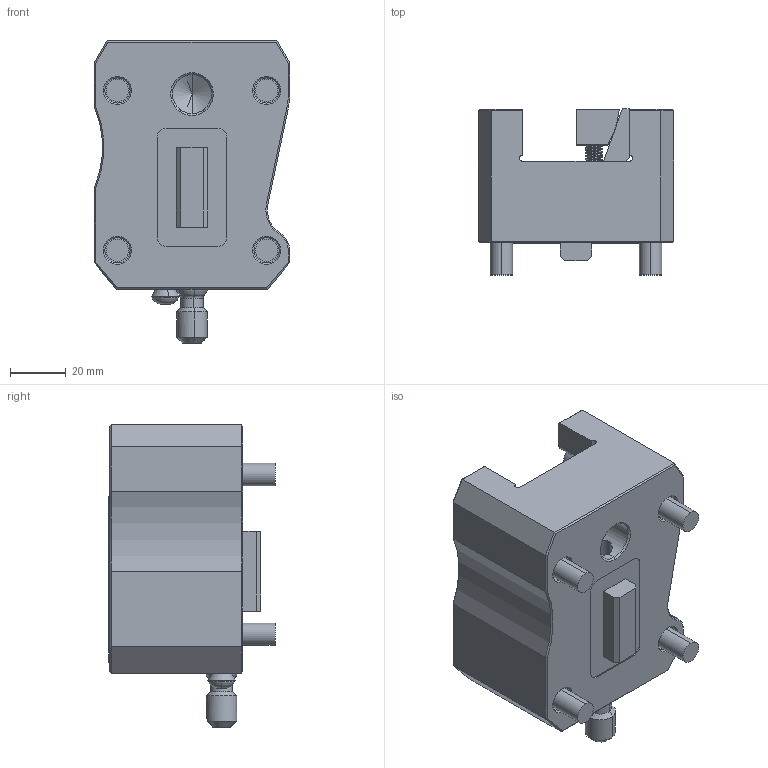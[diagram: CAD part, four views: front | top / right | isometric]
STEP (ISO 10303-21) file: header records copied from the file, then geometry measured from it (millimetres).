
FILE_DESCRIPTION (( 'STEP AP203' ), '1' );
FILE_NAME ('04-0789.STEP', '2022-07-12T15:54:22', ( '' ), ( '' ), 'SwSTEP 2.0', 'SolidWorks 2021', '' );
FILE_SCHEMA (( 'CONFIG_CONTROL_DESIGN' ));
Length unit declared in the file: inch
Products named in the file (13): 20-3797; 40-1640; 40-0124; 22-8749; 57-0026; 10000011184; 10000015933; 10000016468; 20-3796; 40-0003_40-0003; 40-1626_40-1626; 20-1056B; 04-0789
Assembly tree (16 placements, depth 3):
  04-0789
    10000011184
      20-1056B
      22-8749
      40-1626_40-1626  x2
      40-1640
      40-0124  x4
      40-0003_40-0003
      10000015933
      20-3796
      20-3797
      10000016468
      57-0026
Bounding box: 69.85 x 59.4 x 108.18 mm (x, y, z)
Volume: 223887.1 mm3; surface area: 57285.6 mm2
Topology: 15 solids, 15 shells, 628 faces, 1597 edges, 1010 vertices
Faces by surface type: cylinder 341, plane 164, cone 105, torus 10, bspline 8
Entity records: 19224 total; most frequent: CARTESIAN_POINT 6910, ORIENTED_EDGE 2382, DIRECTION 2177, EDGE_CURVE 1191, AXIS2_PLACEMENT_3D 817, VERTEX_POINT 758, VECTOR 543, LINE 543
